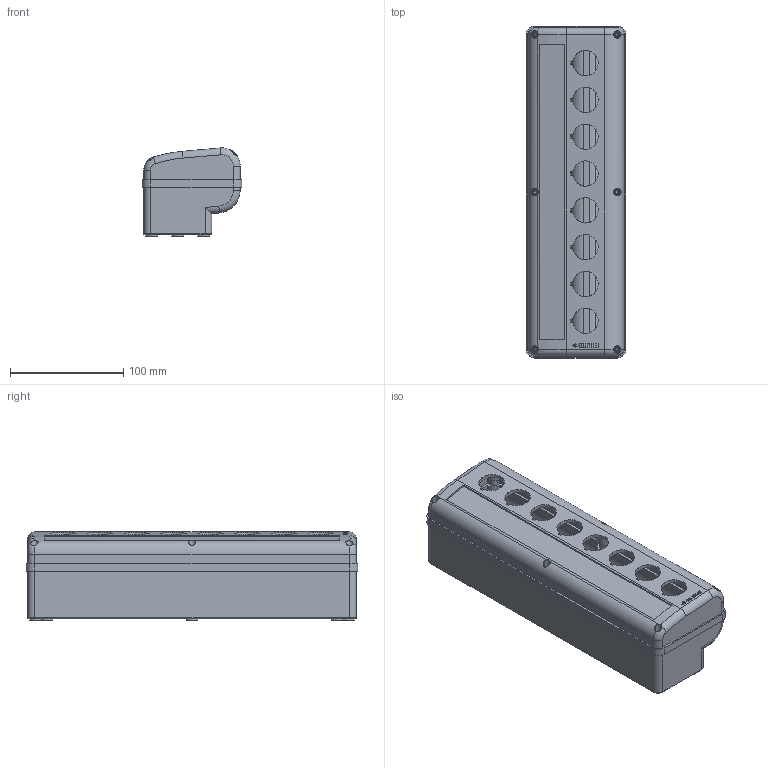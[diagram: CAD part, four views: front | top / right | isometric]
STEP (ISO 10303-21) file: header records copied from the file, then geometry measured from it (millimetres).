
FILE_DESCRIPTION (( 'STEP AP214' ), '1' );
FILE_NAME ('080E290-P8.STEP', '2026-02-09T15:22:15', ( '' ), ( '' ), 'SwSTEP 2.0', 'SolidWorks 2025', '' );
FILE_SCHEMA (( 'AUTOMOTIVE_DESIGN' ));
Length unit declared in the file: millimetre
Products named in the file (5): 225330-P8 -WEB; 080E290-P8; 10209 Vite TC ø3,5x24 Torx T15; 224077A; 225334 - WEB
Assembly tree (9 placements, depth 2):
  080E290-P8
    225334 - WEB
    224077A
    225330-P8 -WEB
    10209 Vite TC ø3,5x24 Torx T15  x6
Bounding box: 88 x 293 x 77.68 mm (x, y, z)
Volume: 296167.1 mm3; surface area: 212296.9 mm2
Topology: 9 solids, 9 shells, 970 faces, 2618 edges, 1703 vertices
Faces by surface type: cylinder 471, plane 360, bspline 60, cone 48, torus 31
Entity records: 22836 total; most frequent: CARTESIAN_POINT 6653, ORIENTED_EDGE 3532, DIRECTION 3151, EDGE_CURVE 1766, VERTEX_POINT 1163, AXIS2_PLACEMENT_3D 1101, VECTOR 949, LINE 949
